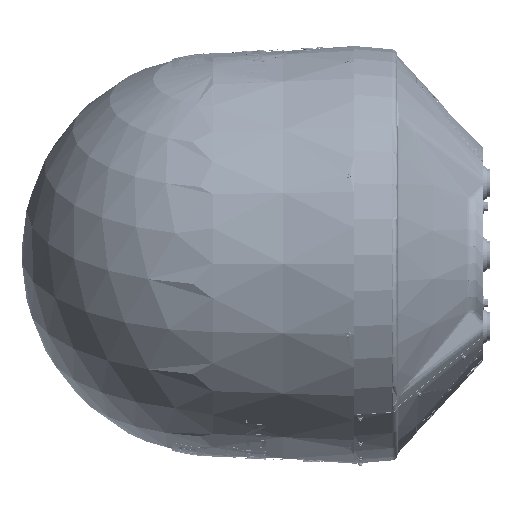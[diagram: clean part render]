
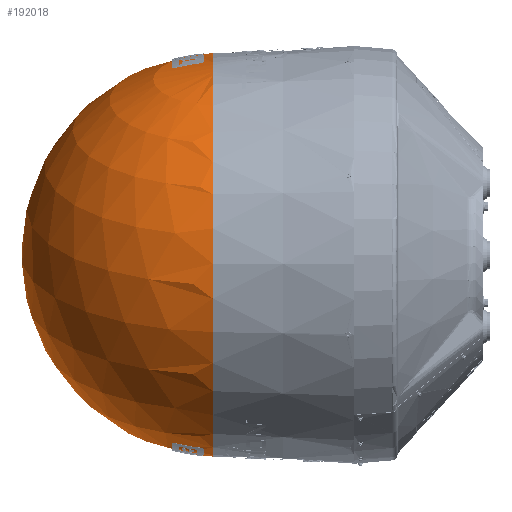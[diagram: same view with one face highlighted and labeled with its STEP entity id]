
A CAD part, left-side view. The second image highlights one B-rep face of the part: STEP entity #192018.
In plain terms, the highlighted spherical face has radius 430.149 mm.
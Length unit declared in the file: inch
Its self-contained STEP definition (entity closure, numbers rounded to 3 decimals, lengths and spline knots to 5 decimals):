
#13338 = FACE_OUTER_BOUND ( 'NONE', #66423, .T. ) ;
#13901 = CIRCLE ( 'NONE', #228889, 16.91351 ) ;
#15889 = DIRECTION ( 'NONE',  ( 0.383, 0., -0.924 ) ) ;
#54754 = CARTESIAN_POINT ( 'NONE',  ( 0., 21.76799, 0. ) ) ;
#58613 = CARTESIAN_POINT ( 'NONE',  ( 0., 22.62093, 0. ) ) ;
#66423 = EDGE_LOOP ( 'NONE', ( #202979 ) ) ;
#118143 = DIRECTION ( 'NONE',  ( -0.924, 0., -0.383 ) ) ;
#118830 = CARTESIAN_POINT ( 'NONE',  ( -15.62604, 22.62093, -6.47252 ) ) ;
#125845 = EDGE_CURVE ( 'NONE', #241778, #241778, #13901, .T. ) ;
#133727 = DIRECTION ( 'NONE',  ( 0., 1., 0. ) ) ;
#139866 = AXIS2_PLACEMENT_3D ( 'NONE', #54754, #15889, #194545 ) ;
#192018 = ADVANCED_FACE ( 'NONE', ( #13338 ), #232142, .T. ) ;
#194545 = DIRECTION ( 'NONE',  ( 0.924, 0., 0.383 ) ) ;
#202979 = ORIENTED_EDGE ( 'NONE', *, *, #125845, .T. ) ;
#228889 = AXIS2_PLACEMENT_3D ( 'NONE', #58613, #133727, #118143 ) ;
#232142 = SPHERICAL_SURFACE ( 'NONE', #139866, 16.935 ) ;
#241778 = VERTEX_POINT ( 'NONE', #118830 ) ;
